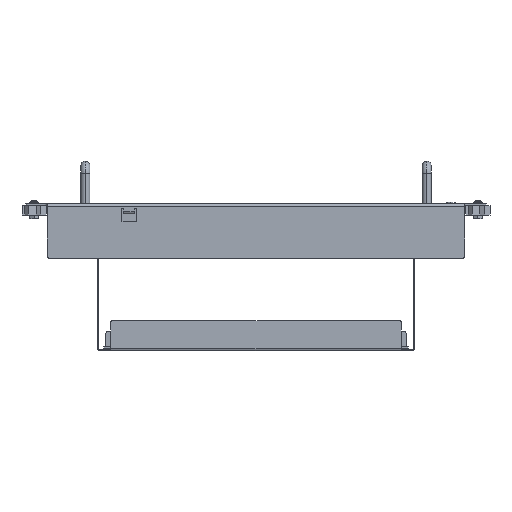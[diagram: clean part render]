
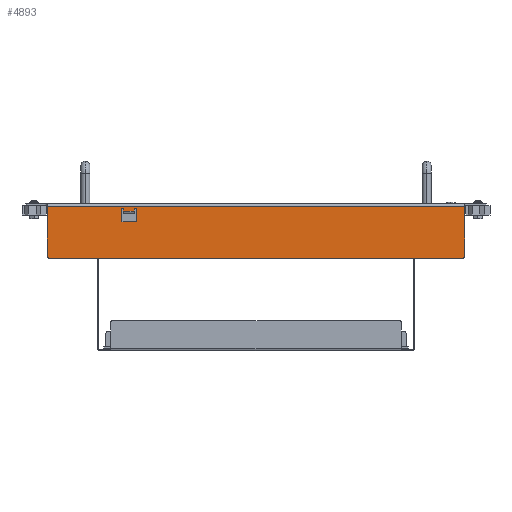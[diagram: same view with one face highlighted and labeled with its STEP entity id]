
A CAD part, front view. The second image highlights one B-rep face of the part: STEP entity #4893.
In plain terms, the highlighted planar face has unit normal (0, -1, 0) as drawn and (-1, 0, 0) by its records, which use the part's own axes.
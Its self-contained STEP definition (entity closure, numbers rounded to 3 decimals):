
#1515=DIRECTION('',(0.,0.,1.));
#1516=VECTOR('',#1515,438.15);
#1517=CARTESIAN_POINT('',(-1.832,-3.,22.225));
#1518=LINE('',#1517,#1516);
#1558=DIRECTION('',(0.,1.,0.));
#1559=VECTOR('',#1558,52.263);
#1560=CARTESIAN_POINT('',(-1.832,-55.263,22.225));
#1561=LINE('',#1560,#1559);
#1565=DIRECTION('',(0.,-1.,0.));
#1566=VECTOR('',#1565,52.263);
#1567=CARTESIAN_POINT('',(-1.832,-3.,460.375));
#1568=LINE('',#1567,#1566);
#1572=DIRECTION('',(0.,0.,-1.));
#1573=VECTOR('',#1572,434.15);
#1574=CARTESIAN_POINT('',(-1.832,-57.263,458.375));
#1575=LINE('',#1574,#1573);
#1579=DIRECTION('',(0.,-1.,0.));
#1580=VECTOR('',#1579,1.651);
#1581=CARTESIAN_POINT('',(-1.832,-6.175,102.235));
#1582=LINE('',#1581,#1580);
#1586=DIRECTION('',(0.,0.,1.));
#1587=VECTOR('',#1586,0.54);
#1588=CARTESIAN_POINT('',(-1.832,-5.175,100.695));
#1589=LINE('',#1588,#1587);
#1593=DIRECTION('',(0.,1.,0.));
#1594=VECTOR('',#1593,11.97);
#1595=CARTESIAN_POINT('',(-1.832,-18.145,99.695));
#1596=LINE('',#1595,#1594);
#1600=DIRECTION('',(0.,0.,-1.));
#1601=VECTOR('',#1600,14.51);
#1602=CARTESIAN_POINT('',(-1.832,-19.145,115.205));
#1603=LINE('',#1602,#1601);
#1607=DIRECTION('',(0.,-1.,0.));
#1608=VECTOR('',#1607,11.97);
#1609=CARTESIAN_POINT('',(-1.832,-6.175,116.205));
#1610=LINE('',#1609,#1608);
#1614=DIRECTION('',(0.,0.,1.));
#1615=VECTOR('',#1614,0.54);
#1616=CARTESIAN_POINT('',(-1.832,-5.175,114.665));
#1617=LINE('',#1616,#1615);
#1621=DIRECTION('',(0.,1.,0.));
#1622=VECTOR('',#1621,1.651);
#1623=CARTESIAN_POINT('',(-1.832,-7.826,113.665));
#1624=LINE('',#1623,#1622);
#1628=DIRECTION('',(0.,0.,1.));
#1629=VECTOR('',#1628,11.43);
#1630=CARTESIAN_POINT('',(-1.832,-7.826,102.235));
#1631=LINE('',#1630,#1629);
#1642=CARTESIAN_POINT('',(-1.832,-55.263,24.225));
#1643=DIRECTION('',(-1.,0.,0.));
#1644=DIRECTION('',(0.,0.,-1.));
#1645=AXIS2_PLACEMENT_3D('',#1642,#1643,#1644);
#1749=CARTESIAN_POINT('',(-1.832,-55.263,458.375));
#1750=DIRECTION('',(-1.,0.,0.));
#1751=DIRECTION('',(0.,-1.,0.));
#1752=AXIS2_PLACEMENT_3D('',#1749,#1750,#1751);
#1894=CARTESIAN_POINT('',(-1.832,-6.175,100.695));
#1895=DIRECTION('',(1.,0.,0.));
#1896=DIRECTION('',(0.,0.,-1.));
#1897=AXIS2_PLACEMENT_3D('',#1894,#1895,#1896);
#1924=CARTESIAN_POINT('',(-1.832,-18.145,100.695));
#1925=DIRECTION('',(1.,0.,0.));
#1926=DIRECTION('',(0.,-1.,0.));
#1927=AXIS2_PLACEMENT_3D('',#1924,#1925,#1926);
#1954=CARTESIAN_POINT('',(-1.832,-18.145,115.205));
#1955=DIRECTION('',(1.,0.,0.));
#1956=DIRECTION('',(0.,0.,1.));
#1957=AXIS2_PLACEMENT_3D('',#1954,#1955,#1956);
#1984=CARTESIAN_POINT('',(-1.832,-6.175,115.205));
#1985=DIRECTION('',(1.,0.,0.));
#1986=DIRECTION('',(0.,1.,0.));
#1987=AXIS2_PLACEMENT_3D('',#1984,#1985,#1986);
#2014=CARTESIAN_POINT('',(-1.832,-6.175,114.665));
#2015=DIRECTION('',(1.,0.,0.));
#2016=DIRECTION('',(0.,0.,-1.));
#2017=AXIS2_PLACEMENT_3D('',#2014,#2015,#2016);
#2197=CARTESIAN_POINT('',(-1.832,-6.175,101.235));
#2198=DIRECTION('',(1.,0.,0.));
#2199=DIRECTION('',(0.,1.,0.));
#2200=AXIS2_PLACEMENT_3D('',#2197,#2198,#2199);
#3540=CARTESIAN_POINT('',(-1.832,-3.,22.225));
#3541=CARTESIAN_POINT('',(-1.832,-3.,460.375));
#3542=VERTEX_POINT('',#3540);
#3543=VERTEX_POINT('',#3541);
#3585=CARTESIAN_POINT('',(-1.832,-55.263,22.225));
#3587=VERTEX_POINT('',#3585);
#3588=CARTESIAN_POINT('',(-1.832,-57.263,24.225));
#3589=VERTEX_POINT('',#3588);
#3593=CARTESIAN_POINT('',(-1.832,-57.263,458.375));
#3595=VERTEX_POINT('',#3593);
#3596=CARTESIAN_POINT('',(-1.832,-55.263,460.375));
#3597=VERTEX_POINT('',#3596);
#3750=CARTESIAN_POINT('',(-1.832,-7.826,102.235));
#3751=VERTEX_POINT('',#3750);
#3756=CARTESIAN_POINT('',(-1.832,-7.826,113.665));
#3757=VERTEX_POINT('',#3756);
#3904=CARTESIAN_POINT('',(-1.832,-6.175,99.695));
#3906=VERTEX_POINT('',#3904);
#3908=CARTESIAN_POINT('',(-1.832,-5.175,100.695));
#3910=VERTEX_POINT('',#3908);
#3912=CARTESIAN_POINT('',(-1.832,-5.175,101.235));
#3914=VERTEX_POINT('',#3912);
#3916=CARTESIAN_POINT('',(-1.832,-6.175,102.235));
#3918=VERTEX_POINT('',#3916);
#3920=CARTESIAN_POINT('',(-1.832,-6.175,113.665));
#3922=VERTEX_POINT('',#3920);
#3924=CARTESIAN_POINT('',(-1.832,-5.175,114.665));
#3926=VERTEX_POINT('',#3924);
#3928=CARTESIAN_POINT('',(-1.832,-5.175,115.205));
#3930=VERTEX_POINT('',#3928);
#3932=CARTESIAN_POINT('',(-1.832,-6.175,116.205));
#3934=VERTEX_POINT('',#3932);
#3936=CARTESIAN_POINT('',(-1.832,-18.145,116.205));
#3938=VERTEX_POINT('',#3936);
#3940=CARTESIAN_POINT('',(-1.832,-19.145,115.205));
#3942=VERTEX_POINT('',#3940);
#3944=CARTESIAN_POINT('',(-1.832,-19.145,100.695));
#3946=VERTEX_POINT('',#3944);
#3948=CARTESIAN_POINT('',(-1.832,-18.145,99.695));
#3950=VERTEX_POINT('',#3948);
#4845=CARTESIAN_POINT('',(-1.832,-1.194,0.));
#4846=DIRECTION('',(-1.,0.,0.));
#4847=DIRECTION('',(0.,0.,1.));
#4848=AXIS2_PLACEMENT_3D('',#4845,#4846,#4847);
#4849=PLANE('',#4848);
#4851=ORIENTED_EDGE('',*,*,#4850,.F.);
#4853=ORIENTED_EDGE('',*,*,#4852,.T.);
#4854=ORIENTED_EDGE('',*,*,#4832,.T.);
#4856=ORIENTED_EDGE('',*,*,#4855,.T.);
#4858=ORIENTED_EDGE('',*,*,#4857,.F.);
#4860=ORIENTED_EDGE('',*,*,#4859,.T.);
#4861=EDGE_LOOP('',(#4851,#4853,#4854,#4856,#4858,#4860));
#4862=FACE_OUTER_BOUND('',#4861,.F.);
#4864=ORIENTED_EDGE('',*,*,#4863,.F.);
#4866=ORIENTED_EDGE('',*,*,#4865,.F.);
#4868=ORIENTED_EDGE('',*,*,#4867,.F.);
#4870=ORIENTED_EDGE('',*,*,#4869,.F.);
#4872=ORIENTED_EDGE('',*,*,#4871,.F.);
#4874=ORIENTED_EDGE('',*,*,#4873,.F.);
#4876=ORIENTED_EDGE('',*,*,#4875,.F.);
#4878=ORIENTED_EDGE('',*,*,#4877,.F.);
#4880=ORIENTED_EDGE('',*,*,#4879,.F.);
#4882=ORIENTED_EDGE('',*,*,#4881,.F.);
#4884=ORIENTED_EDGE('',*,*,#4883,.F.);
#4886=ORIENTED_EDGE('',*,*,#4885,.F.);
#4888=ORIENTED_EDGE('',*,*,#4887,.F.);
#4890=ORIENTED_EDGE('',*,*,#4889,.F.);
#4891=EDGE_LOOP('',(#4864,#4866,#4868,#4870,#4872,#4874,#4876,#4878,#4880,#4882,
#4884,#4886,#4888,#4890));
#4892=FACE_BOUND('',#4891,.F.);
#4893=ADVANCED_FACE('',(#4862,#4892),#4849,.T.);
#1646=CIRCLE('',#1645,2.);
#1753=CIRCLE('',#1752,2.);
#1898=CIRCLE('',#1897,1.);
#1928=CIRCLE('',#1927,1.);
#1958=CIRCLE('',#1957,1.);
#1988=CIRCLE('',#1987,1.);
#2018=CIRCLE('',#2017,1.);
#2201=CIRCLE('',#2200,1.);
#4832=EDGE_CURVE('',#3542,#3543,#1518,.T.);
#4850=EDGE_CURVE('',#3587,#3589,#1646,.T.);
#4852=EDGE_CURVE('',#3587,#3542,#1561,.T.);
#4855=EDGE_CURVE('',#3543,#3597,#1568,.T.);
#4857=EDGE_CURVE('',#3595,#3597,#1753,.T.);
#4859=EDGE_CURVE('',#3595,#3589,#1575,.T.);
#4863=EDGE_CURVE('',#3918,#3751,#1582,.T.);
#4865=EDGE_CURVE('',#3914,#3918,#2201,.T.);
#4867=EDGE_CURVE('',#3910,#3914,#1589,.T.);
#4869=EDGE_CURVE('',#3906,#3910,#1898,.T.);
#4871=EDGE_CURVE('',#3950,#3906,#1596,.T.);
#4873=EDGE_CURVE('',#3946,#3950,#1928,.T.);
#4875=EDGE_CURVE('',#3942,#3946,#1603,.T.);
#4877=EDGE_CURVE('',#3938,#3942,#1958,.T.);
#4879=EDGE_CURVE('',#3934,#3938,#1610,.T.);
#4881=EDGE_CURVE('',#3930,#3934,#1988,.T.);
#4883=EDGE_CURVE('',#3926,#3930,#1617,.T.);
#4885=EDGE_CURVE('',#3922,#3926,#2018,.T.);
#4887=EDGE_CURVE('',#3757,#3922,#1624,.T.);
#4889=EDGE_CURVE('',#3751,#3757,#1631,.T.);
